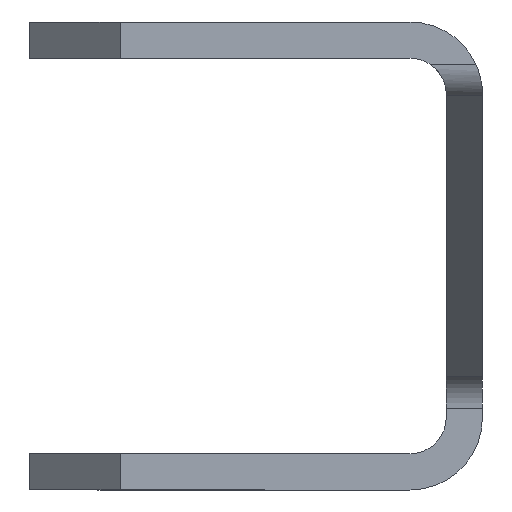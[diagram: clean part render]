
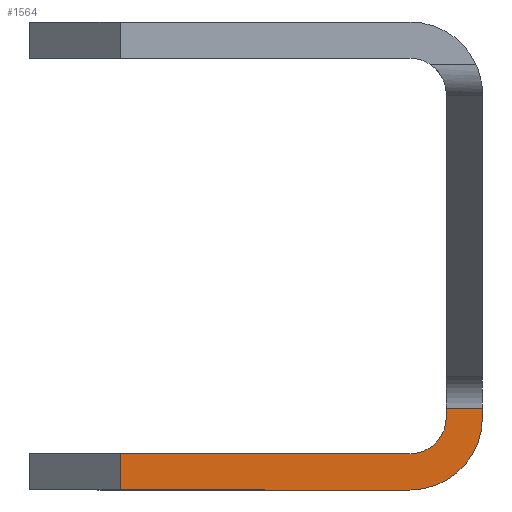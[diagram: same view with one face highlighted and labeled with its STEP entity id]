
A CAD part, left-side view. The second image highlights one B-rep face of the part: STEP entity #1564.
In plain terms, the highlighted planar face has unit normal (-1, 0, 0).
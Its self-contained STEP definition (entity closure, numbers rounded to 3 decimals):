
#28 = DIRECTION ( 'NONE',  ( -1., 0., 0. ) ) ;
#72 = CARTESIAN_POINT ( 'NONE',  ( -137.5, -5.1, -7.75 ) ) ;
#80 = DIRECTION ( 'NONE',  ( 0., 0., -1. ) ) ;
#97 = EDGE_CURVE ( 'NONE', #1142, #1528, #1056, .T. ) ;
#102 = VERTEX_POINT ( 'NONE', #786 ) ;
#109 = EDGE_CURVE ( 'NONE', #258, #102, #1349, .T. ) ;
#129 = VECTOR ( 'NONE', #1422, 1000. ) ;
#182 = VERTEX_POINT ( 'NONE', #72 ) ;
#219 = VECTOR ( 'NONE', #953, 1000. ) ;
#229 = ORIENTED_EDGE ( 'NONE', *, *, #1492, .T. ) ;
#230 = EDGE_CURVE ( 'NONE', #182, #774, #1277, .T. ) ;
#258 = VERTEX_POINT ( 'NONE', #1385 ) ;
#320 = CARTESIAN_POINT ( 'NONE',  ( -137.5, -5.1, -5.35 ) ) ;
#341 = CARTESIAN_POINT ( 'NONE',  ( -137.5, 4.5, -4.35 ) ) ;
#375 = LINE ( 'NONE', #812, #219 ) ;
#388 = CARTESIAN_POINT ( 'NONE',  ( -137.5, 7.5, -4.35 ) ) ;
#473 = ORIENTED_EDGE ( 'NONE', *, *, #1486, .F. ) ;
#479 = DIRECTION ( 'NONE',  ( 0., 1., 0. ) ) ;
#499 = CARTESIAN_POINT ( 'NONE',  ( -137.5, -6.3, -5.046 ) ) ;
#505 = ORIENTED_EDGE ( 'NONE', *, *, #1439, .F. ) ;
#522 = DIRECTION ( 'NONE',  ( 1., 0., 0. ) ) ;
#586 = VECTOR ( 'NONE', #479, 1000. ) ;
#591 = CIRCLE ( 'NONE', #912, 1.2 ) ;
#662 = DIRECTION ( 'NONE',  ( 0., 1., 0. ) ) ;
#685 = ORIENTED_EDGE ( 'NONE', *, *, #230, .T. ) ;
#743 = VERTEX_POINT ( 'NONE', #1792 ) ;
#774 = VERTEX_POINT ( 'NONE', #1868 ) ;
#786 = CARTESIAN_POINT ( 'NONE',  ( -137.5, 4.5, -7.75 ) ) ;
#812 = CARTESIAN_POINT ( 'NONE',  ( -137.5, -7.5, -4.35 ) ) ;
#823 = VECTOR ( 'NONE', #1633, 1000. ) ;
#838 = VERTEX_POINT ( 'NONE', #1293 ) ;
#847 = LINE ( 'NONE', #1839, #129 ) ;
#862 = VECTOR ( 'NONE', #662, 1000. ) ;
#912 = AXIS2_PLACEMENT_3D ( 'NONE', #320, #28, #1471 ) ;
#953 = DIRECTION ( 'NONE',  ( 0., 0., -1. ) ) ;
#971 = LINE ( 'NONE', #1236, #1351 ) ;
#1013 = ORIENTED_EDGE ( 'NONE', *, *, #1289, .T. ) ;
#1056 = LINE ( 'NONE', #1817, #586 ) ;
#1074 = EDGE_CURVE ( 'NONE', #1528, #743, #971, .T. ) ;
#1083 = PLANE ( 'NONE',  #1283 ) ;
#1090 = DIRECTION ( 'NONE',  ( -1., 0., 0. ) ) ;
#1095 = DIRECTION ( 'NONE',  ( 0., 0., -1. ) ) ;
#1142 = VERTEX_POINT ( 'NONE', #1644 ) ;
#1221 = LINE ( 'NONE', #1810, #862 ) ;
#1236 = CARTESIAN_POINT ( 'NONE',  ( -137.5, -6.3, 7.75 ) ) ;
#1241 = AXIS2_PLACEMENT_3D ( 'NONE', #1636, #1090, #1669 ) ;
#1277 = CIRCLE ( 'NONE', #1241, 2.4 ) ;
#1283 = AXIS2_PLACEMENT_3D ( 'NONE', #388, #522, #1095 ) ;
#1289 = EDGE_CURVE ( 'NONE', #102, #182, #847, .T. ) ;
#1293 = CARTESIAN_POINT ( 'NONE',  ( -137.5, -5.1, -6.55 ) ) ;
#1349 = LINE ( 'NONE', #341, #823 ) ;
#1351 = VECTOR ( 'NONE', #80, 1000. ) ;
#1385 = CARTESIAN_POINT ( 'NONE',  ( -137.5, 4.5, -6.55 ) ) ;
#1422 = DIRECTION ( 'NONE',  ( 0., -1., 0. ) ) ;
#1439 = EDGE_CURVE ( 'NONE', #838, #743, #591, .T. ) ;
#1471 = DIRECTION ( 'NONE',  ( 0., 0., -1. ) ) ;
#1486 = EDGE_CURVE ( 'NONE', #1142, #774, #375, .T. ) ;
#1492 = EDGE_CURVE ( 'NONE', #838, #258, #1221, .T. ) ;
#1528 = VERTEX_POINT ( 'NONE', #499 ) ;
#1564 = ADVANCED_FACE ( 'NONE', ( #1775 ), #1083, .F. ) ;
#1633 = DIRECTION ( 'NONE',  ( 0., 0., -1. ) ) ;
#1636 = CARTESIAN_POINT ( 'NONE',  ( -137.5, -5.1, -5.35 ) ) ;
#1644 = CARTESIAN_POINT ( 'NONE',  ( -137.5, -7.5, -5.046 ) ) ;
#1669 = DIRECTION ( 'NONE',  ( 0., 0., -1. ) ) ;
#1702 = ORIENTED_EDGE ( 'NONE', *, *, #1074, .T. ) ;
#1710 = ORIENTED_EDGE ( 'NONE', *, *, #109, .T. ) ;
#1775 = FACE_OUTER_BOUND ( 'NONE', #1785, .T. ) ;
#1785 = EDGE_LOOP ( 'NONE', ( #229, #1710, #1013, #685, #473, #1864, #1702, #505 ) ) ;
#1792 = CARTESIAN_POINT ( 'NONE',  ( -137.5, -6.3, -5.35 ) ) ;
#1810 = CARTESIAN_POINT ( 'NONE',  ( -137.5, 7.5, -6.55 ) ) ;
#1817 = CARTESIAN_POINT ( 'NONE',  ( -137.5, 7.5, -5.046 ) ) ;
#1839 = CARTESIAN_POINT ( 'NONE',  ( -137.5, 7.5, -7.75 ) ) ;
#1864 = ORIENTED_EDGE ( 'NONE', *, *, #97, .T. ) ;
#1868 = CARTESIAN_POINT ( 'NONE',  ( -137.5, -7.5, -5.35 ) ) ;
